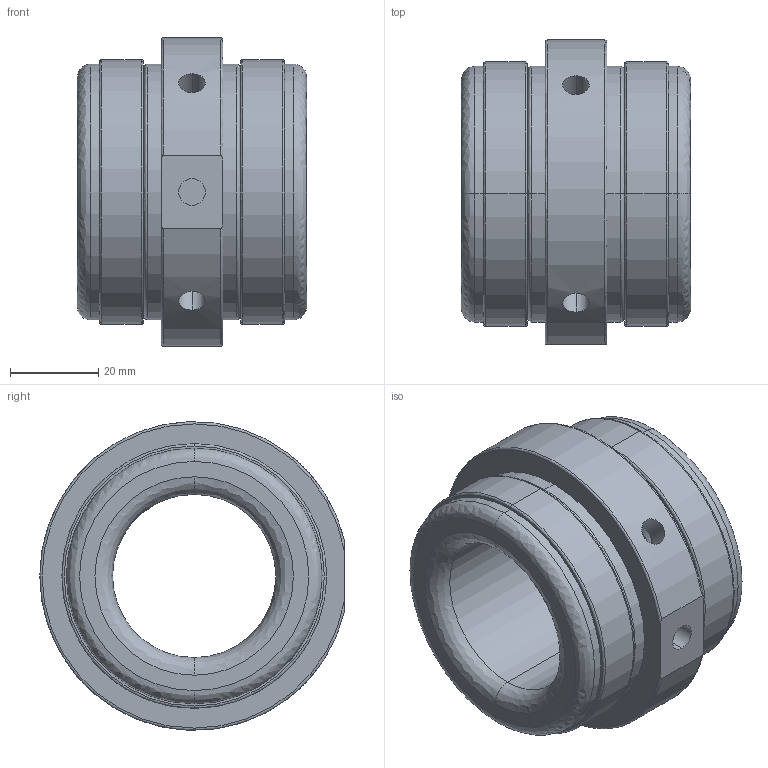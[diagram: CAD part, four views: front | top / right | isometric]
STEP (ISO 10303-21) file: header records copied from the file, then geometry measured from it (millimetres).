
FILE_DESCRIPTION( (''), '2;1');
FILE_NAME ('TGMX25.528.RBG040GCA_9218.stp','2015-03-30T14:01:10',(''),(''),'spGate 11.3.7','spGate','');
FILE_SCHEMA (('AUTOMOTIVE_DESIGN'));
Length unit declared in the file: millimetre
Bounding box: 52 x 69 x 69.96 mm (x, y, z)
Volume: 99055.3 mm3; surface area: 22690.5 mm2
Topology: 1 solids, 1 shells, 81 faces, 172 edges, 96 vertices
Faces by surface type: bspline 38, cylinder 33, plane 10
Entity records: 4315 total; most frequent: CARTESIAN_POINT 1461, ORIENTED_EDGE 328, DIRECTION 250, COLOUR_RGB 246, PRESENTATION_STYLE_ASSIGNMENT 246, STYLED_ITEM 246, EDGE_CURVE 164, DRAUGHTING_PRE_DEFINED_CURVE_FONT 164
